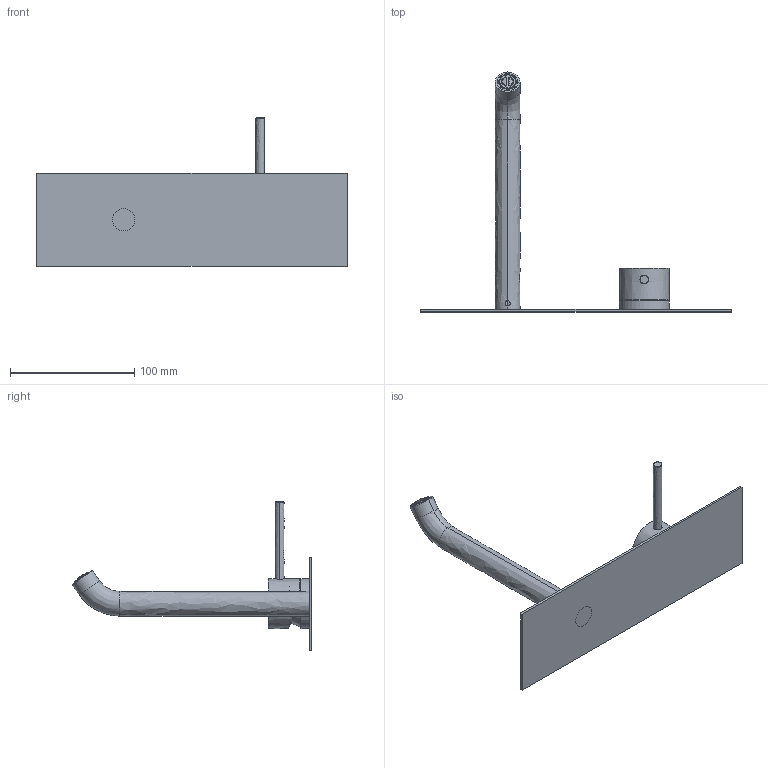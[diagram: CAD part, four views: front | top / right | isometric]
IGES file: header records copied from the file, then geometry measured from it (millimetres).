
Start section:  PTC IGES file: 6954821.igs
Global section: file name: 6954821.igs; native system: Creo Parametric by PTC Inc.; preprocessor: 2022014; author: carloff; organization: Unknown; date: 20251118.163154; units: millimetre
Bounding box: 250 x 193.13 x 119.6 mm (x, y, z)
Surface area: 73591.1 mm2 (no closed solid volume)
Topology: 0 solids, 0 shells, 1667 faces, 9896 edges, 9890 vertices
Faces by surface type: bspline 1404, revolution 260, extrusion 3
